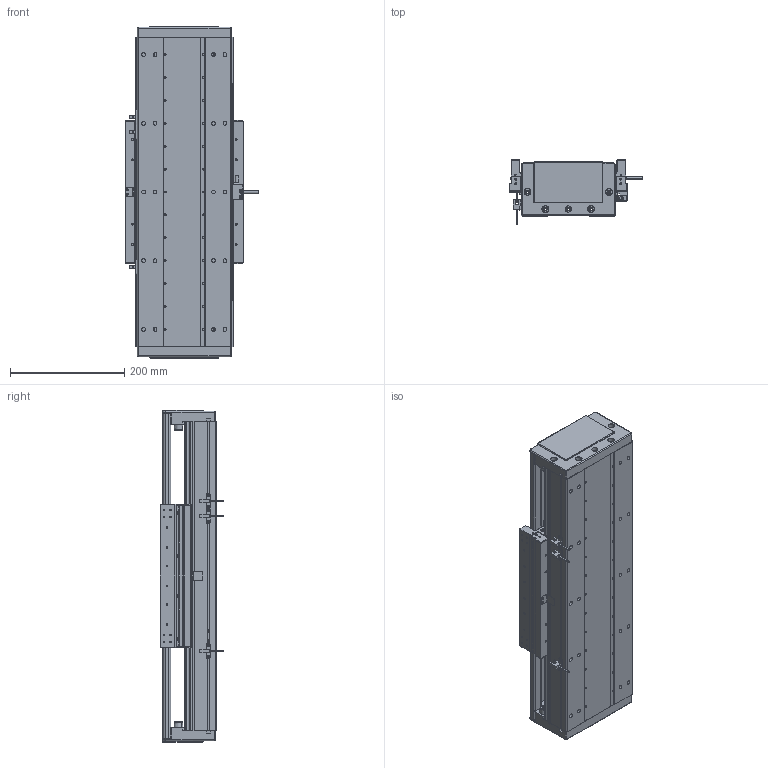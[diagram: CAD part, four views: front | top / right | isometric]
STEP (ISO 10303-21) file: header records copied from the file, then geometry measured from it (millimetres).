
FILE_DESCRIPTION (( 'STEP AP203' ), '1' );
FILE_NAME ('DA-C165-C3-T240-C010-0.2 直线电机.STEP', '2023-06-13T08:38:02', ( '微软用户' ), ( '微软中国' ), 'SwSTEP 2.0', 'SolidWorks 2019', '' );
FILE_SCHEMA (( 'CONFIG_CONTROL_DESIGN' ));
Length unit declared in the file: millimetre
Products named in the file (15): IU-CU165-L 菁釱絳寢; 复件 DMA-010-0.2 读数头^DA-C165-C3-T-C010-0.2-N 直线电机; 葩璃 CKM03-W075-C1C2-TP-3.0^DA-C165-C3-T-C010-0.2-N 眻盄萇儂; 复件 DA165-T-002-00 盖板^DA-C165-C3-T-C010-0.2-N 直线电机_0840-002-00; 葩璃 DA95-GT-T-00^IU-CU165-L 菁釱絳寢_T; 复件 六角薄螺母 M3^DA-C165-C3-T-C010-0.2-N 直线电机_GB_FASTENER_NUT_STNAB M3-C; 复件 DA95-HXJ-00 缓冲橡胶^DA-C165-C3-T-C010-0.2-N 直线电机; DA-C165-C3-T240-C010-0.2 眻盄萇儂; 葩璃 CKM01-W075-TRL^DA-C165-C3-T-C010-0.2-N 眻盄萇儂; 复件 DA165-GYP-00 光电感应片^DA-C165-C3-T-C010-0.2-N 直线电机; 珨极趙賑雄怢啣C3-wf; 复件 XD-U-02L 磁栅尺^DA-C165-C3-T-C010-0.2-N 直线电机_T; 葩璃 PM-T45^DA-C165-C3-T-C010-0.2-N 眻盄萇儂; 复件 CU165 底座^IU-CU165-L 底座导轨_L540; 复件 DA165-DG-H-N-00 端盖^DA-C165-C3-T-C010-0.2-N 直线电机
Assembly tree (30 placements, depth 3):
  DA-C165-C3-T240-C010-0.2 眻盄萇儂
    IU-CU165-L 菁釱絳寢
      复件 CU165 底座^IU-CU165-L 底座导轨_L540
      葩璃 DA95-GT-T-00^IU-CU165-L 菁釱絳寢_T  x4
    复件 DA165-DG-H-N-00 端盖^DA-C165-C3-T-C010-0.2-N 直线电机  x2
    复件 DA95-HXJ-00 缓冲橡胶^DA-C165-C3-T-C010-0.2-N 直线电机  x4
    复件 DA165-T-002-00 盖板^DA-C165-C3-T-C010-0.2-N 直线电机_0840-002-00
    复件 XD-U-02L 磁栅尺^DA-C165-C3-T-C010-0.2-N 直线电机_T
    葩璃 PM-T45^DA-C165-C3-T-C010-0.2-N 眻盄萇儂  x3
    葩璃 CKM01-W075-TRL^DA-C165-C3-T-C010-0.2-N 眻盄萇儂
    复件 DA165-GYP-00 光电感应片^DA-C165-C3-T-C010-0.2-N 直线电机
    复件 DMA-010-0.2 读数头^DA-C165-C3-T-C010-0.2-N 直线电机
    葩璃 CKM03-W075-C1C2-TP-3.0^DA-C165-C3-T-C010-0.2-N 眻盄萇儂
    复件 六角薄螺母 M3^DA-C165-C3-T-C010-0.2-N 直线电机_GB_FASTENER_NUT_STNAB M3-C  x8
    珨极趙賑雄怢啣C3-wf
Bounding box: 233 x 111.45 x 580 mm (x, y, z)
Volume: 5676484.6 mm3; surface area: 1396173.2 mm2
Topology: 68 solids, 118 shells, 3315 faces, 8618 edges, 5296 vertices
Faces by surface type: cylinder 1546, plane 1159, cone 552, torus 54, sphere 4
Entity records: 93265 total; most frequent: CARTESIAN_POINT 20576, DIRECTION 15240, ORIENTED_EDGE 14290, EDGE_CURVE 7145, AXIS2_PLACEMENT_3D 5744, VERTEX_POINT 4584, VECTOR 3752, LINE 3752
